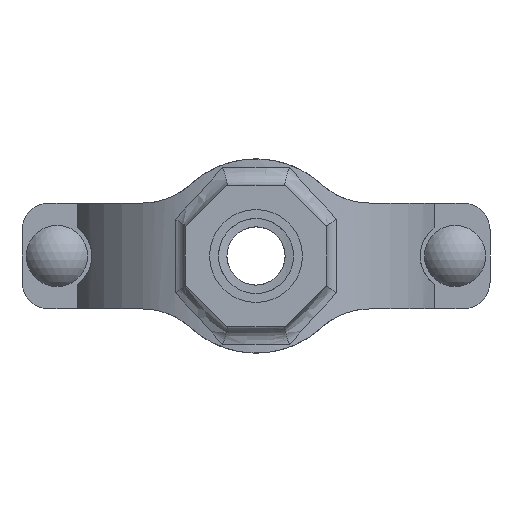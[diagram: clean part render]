
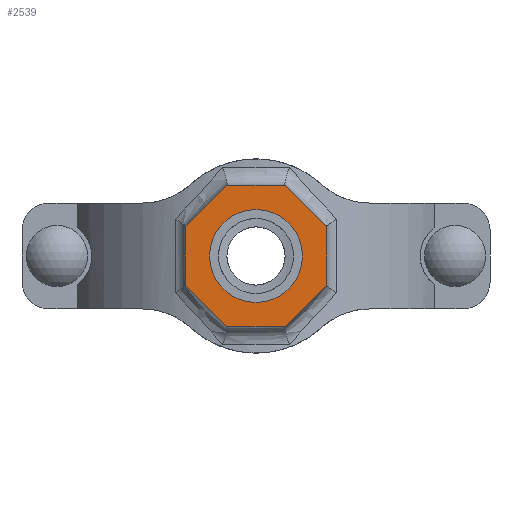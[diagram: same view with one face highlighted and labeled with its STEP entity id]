
A CAD part, front view. The second image highlights one B-rep face of the part: STEP entity #2539.
In plain terms, the highlighted planar face has unit normal (0, -1, 0) as drawn and (0, 1, 0) by its records, which use the part's own axes.
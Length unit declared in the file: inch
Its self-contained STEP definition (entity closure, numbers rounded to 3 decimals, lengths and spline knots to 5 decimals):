
#186=FACE_BOUND('',#459,.T.);
#307=FACE_OUTER_BOUND('',#458,.T.);
#458=EDGE_LOOP('',(#2138,#2139,#2140,#2141,#2142,#2143,#2144,#2145));
#459=EDGE_LOOP('',(#2146));
#594=LINE('',#4773,#780);
#597=LINE('',#4778,#783);
#599=LINE('',#4782,#785);
#601=LINE('',#4786,#787);
#641=LINE('',#5163,#827);
#643=LINE('',#5167,#829);
#645=LINE('',#5171,#831);
#647=LINE('',#5174,#833);
#780=VECTOR('',#3278,0.3937);
#783=VECTOR('',#3283,0.3937);
#785=VECTOR('',#3287,0.3937);
#787=VECTOR('',#3291,0.3937);
#827=VECTOR('',#3427,0.3937);
#829=VECTOR('',#3431,0.3937);
#831=VECTOR('',#3435,0.3937);
#833=VECTOR('',#3439,0.3937);
#919=CIRCLE('',#2802,0.6575);
#1097=VERTEX_POINT('',#4770);
#1098=VERTEX_POINT('',#4772);
#1099=VERTEX_POINT('',#4776);
#1100=VERTEX_POINT('',#4780);
#1101=VERTEX_POINT('',#4784);
#1136=VERTEX_POINT('',#5016);
#1160=VERTEX_POINT('',#5162);
#1161=VERTEX_POINT('',#5166);
#1162=VERTEX_POINT('',#5170);
#1408=EDGE_CURVE('',#1098,#1097,#594,.T.);
#1411=EDGE_CURVE('',#1097,#1099,#597,.T.);
#1413=EDGE_CURVE('',#1099,#1100,#599,.T.);
#1415=EDGE_CURVE('',#1100,#1101,#601,.T.);
#1461=EDGE_CURVE('',#1136,#1136,#919,.T.);
#1495=EDGE_CURVE('',#1160,#1098,#641,.T.);
#1497=EDGE_CURVE('',#1161,#1160,#643,.T.);
#1499=EDGE_CURVE('',#1162,#1161,#645,.T.);
#1501=EDGE_CURVE('',#1101,#1162,#647,.T.);
#2138=ORIENTED_EDGE('',*,*,#1501,.T.);
#2139=ORIENTED_EDGE('',*,*,#1499,.T.);
#2140=ORIENTED_EDGE('',*,*,#1497,.T.);
#2141=ORIENTED_EDGE('',*,*,#1495,.T.);
#2142=ORIENTED_EDGE('',*,*,#1408,.T.);
#2143=ORIENTED_EDGE('',*,*,#1411,.T.);
#2144=ORIENTED_EDGE('',*,*,#1413,.T.);
#2145=ORIENTED_EDGE('',*,*,#1415,.T.);
#2146=ORIENTED_EDGE('',*,*,#1461,.T.);
#2280=PLANE('',#2825);
#2539=ADVANCED_FACE('',(#307,#186),#2280,.T.);
#2802=AXIS2_PLACEMENT_3D('',#5017,#3369,#3370);
#2825=AXIS2_PLACEMENT_3D('',#5175,#3440,#3441);
#3278=DIRECTION('',(0.,0.,1.));
#3283=DIRECTION('',(0.707,0.,0.707));
#3287=DIRECTION('',(1.,0.,0.));
#3291=DIRECTION('',(0.707,0.,-0.707));
#3369=DIRECTION('center_axis',(0.,-1.,0.));
#3370=DIRECTION('ref_axis',(-1.,0.,0.));
#3427=DIRECTION('',(-0.707,0.,0.707));
#3431=DIRECTION('',(-1.,0.,0.));
#3435=DIRECTION('',(-0.707,0.,-0.707));
#3439=DIRECTION('',(0.,0.,-1.));
#3440=DIRECTION('center_axis',(0.,1.,0.));
#3441=DIRECTION('ref_axis',(0.,0.,1.));
#4770=CARTESIAN_POINT('',(-1.,3.56,0.41421));
#4772=CARTESIAN_POINT('',(-1.,3.56,-0.41421));
#4773=CARTESIAN_POINT('',(-1.,3.56,0.41421));
#4776=CARTESIAN_POINT('',(-0.41421,3.56,1.));
#4778=CARTESIAN_POINT('',(-0.41421,3.56,1.));
#4780=CARTESIAN_POINT('',(0.41421,3.56,1.));
#4782=CARTESIAN_POINT('',(0.41421,3.56,1.));
#4784=CARTESIAN_POINT('',(1.,3.56,0.41421));
#4786=CARTESIAN_POINT('',(1.,3.56,0.41421));
#5016=CARTESIAN_POINT('',(0.6575,3.56,0.));
#5017=CARTESIAN_POINT('Origin',(0.,3.56,0.));
#5162=CARTESIAN_POINT('',(-0.41421,3.56,-1.));
#5163=CARTESIAN_POINT('',(-1.,3.56,-0.41421));
#5166=CARTESIAN_POINT('',(0.41421,3.56,-1.));
#5167=CARTESIAN_POINT('',(-0.41421,3.56,-1.));
#5170=CARTESIAN_POINT('',(1.,3.56,-0.41421));
#5171=CARTESIAN_POINT('',(0.41421,3.56,-1.));
#5174=CARTESIAN_POINT('',(1.,3.56,-0.41421));
#5175=CARTESIAN_POINT('Origin',(0.,3.56,0.));
